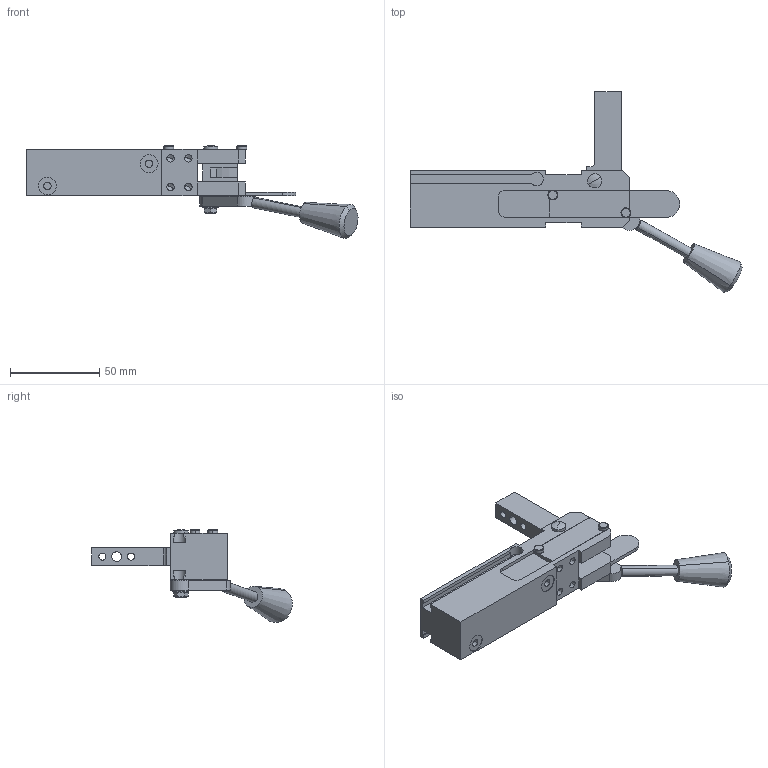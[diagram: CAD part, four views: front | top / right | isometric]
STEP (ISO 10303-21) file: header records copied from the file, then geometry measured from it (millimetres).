
FILE_DESCRIPTION(('CATIA V5 STEP Exchange'),'2;1');
FILE_NAME('C:\Users\huberm\Desktop\PKS_16_1_ZR_A18_T03_TUENKERS.stp','2016-02-01T09:15:19+00:00',('none'),('none'),'CATIA Version 5 Release 19 SP 9 (IN-10)','CATIA V5 STEP AP214','none');
FILE_SCHEMA(('AUTOMOTIVE_DESIGN { 1 0 10303 214 1 1 1 1 }'));
Length unit declared in the file: millimetre
Products named in the file (1): PKS_16_1_ZR_A18_T03_TUENKERS
Bounding box: 186.09 x 112.42 x 52.13 mm (x, y, z)
Volume: 100716.4 mm3; surface area: 29702.1 mm2
Topology: 1 solids, 1 shells, 193 faces, 511 edges, 321 vertices
Faces by surface type: plane 97, cylinder 64, cone 26, torus 4, sphere 2
Entity records: 6759 total; most frequent: CARTESIAN_POINT 1062, ORIENTED_EDGE 986, DIRECTION 706, EDGE_CURVE 493, VERTEX_POINT 321, VECTOR 297, LINE 297, AXIS2_PLACEMENT_3D 295
